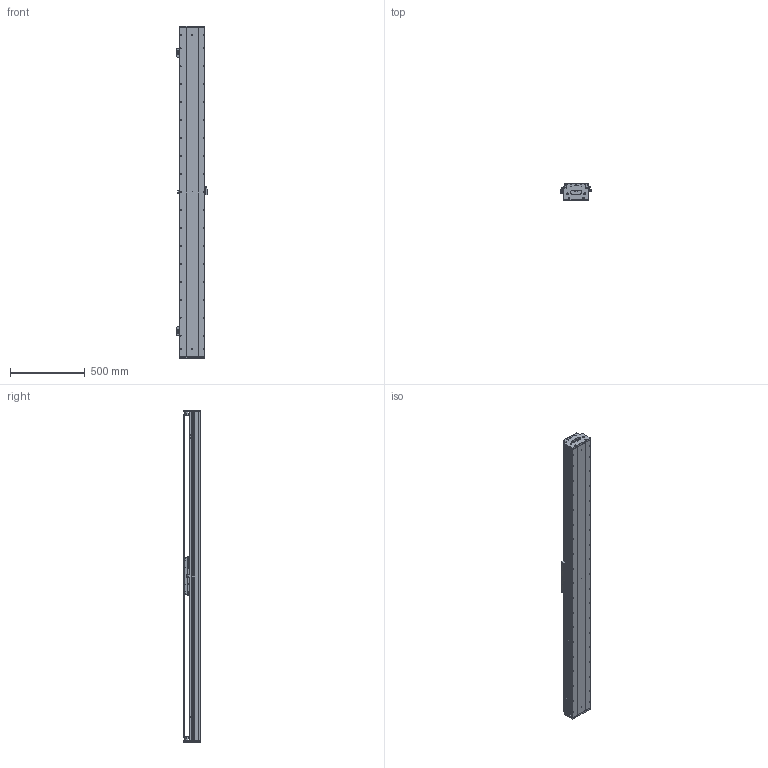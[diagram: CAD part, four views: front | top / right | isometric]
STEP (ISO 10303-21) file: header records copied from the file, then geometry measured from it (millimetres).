
FILE_DESCRIPTION (( 'STEP AP203' ), '1' );
FILE_NAME ('DKW168-C3-W090（T1860-L005-0.2）.STEP', '2021-09-14T00:38:04', ( '微软用户' ), ( '微软中国' ), 'SwSTEP 2.0', 'SolidWorks 2018', '' );
FILE_SCHEMA (( 'CONFIG_CONTROL_DESIGN' ));
Length unit declared in the file: millimetre
Products named in the file (26): pm-y65; 10392-0001-004-00 詩湍揤輸; C3-W090; 10980-0001-003-00 嫖萇羲壽嘐隅釱; 10279-0001-006-00 嶺輸菜輸; 10392-0001-001-00 菁釱; 嫖萇羲壽蚾饜极; DKW168 单轴模组-拉钢带组件; MSA20絳寢; DKW-SG-GYP-H-00 嫖萇覜茼え; CKM01-W090-TRL280; 10279-0001-003-00 傷啣; 嫖萇羲壽蚾饜极A; DKW168-RU-DTJ-00 RU2黍杅芛盓殤; DKW168-HXJ-00 遣喳砎蝶; DKW168-C3-W090-HTB-04 C3-W090賑怢啣; DKW168-C3-W090（T1860-L005-0.2）; RUS嫖掑喜; 10392-0001-002-00 詩湍裔啣; MSB20S1FC; Ru2; 砎蝶猾沭; CKM03-W090-C1C2-TP-0.2 珨极萇儂; RUS嫖掑郪璃; 10392-0001-003-00 詩湍嶺輸; DKW168-HYB-00 賑輸揤啣
Assembly tree (41 placements, depth 3):
  DKW168-C3-W090（T1860-L005-0.2）
    C3-W090
      DKW168-C3-W090-HTB-04 C3-W090賑怢啣
      MSB20S1FC  x4
      CKM03-W090-C1C2-TP-0.2 珨极萇儂
      DKW168-HYB-00 賑輸揤啣  x2
    10392-0001-001-00 菁釱
    MSA20絳寢  x2
    DKW168 单轴模组-拉钢带组件
      10279-0001-003-00 傷啣  x2
      DKW168-HXJ-00 遣喳砎蝶  x4
      10392-0001-002-00 詩湍裔啣
      砎蝶猾沭  x2
      10392-0001-003-00 詩湍嶺輸  x2
      10392-0001-004-00 詩湍揤輸  x2
      10279-0001-006-00 嶺輸菜輸  x2
    CKM01-W090-TRL280
    DKW168-RU-DTJ-00 RU2黍杅芛盓殤
    RUS嫖掑郪璃
      RUS嫖掑喜
      Ru2
    嫖萇羲壽蚾饜极
      pm-y65
      10980-0001-003-00 嫖萇羲壽嘐隅釱
    DKW-SG-GYP-H-00 嫖萇覜茼え
    嫖萇羲壽蚾饜极A
      pm-y65  x2
      10980-0001-003-00 嫖萇羲壽嘐隅釱
Bounding box: 202.1 x 109 x 2220 mm (x, y, z)
Volume: 14719885.6 mm3; surface area: 4296197.4 mm2
Topology: 48 solids, 97 shells, 4862 faces, 12745 edges, 8126 vertices
Faces by surface type: plane 2419, cylinder 1622, cone 510, bspline 279, torus 16, sphere 16
Entity records: 121923 total; most frequent: CARTESIAN_POINT 41034, ORIENTED_EDGE 16237, DIRECTION 15516, EDGE_CURVE 8159, VERTEX_POINT 5321, AXIS2_PLACEMENT_3D 5288, LINE 4940, VECTOR 4940
